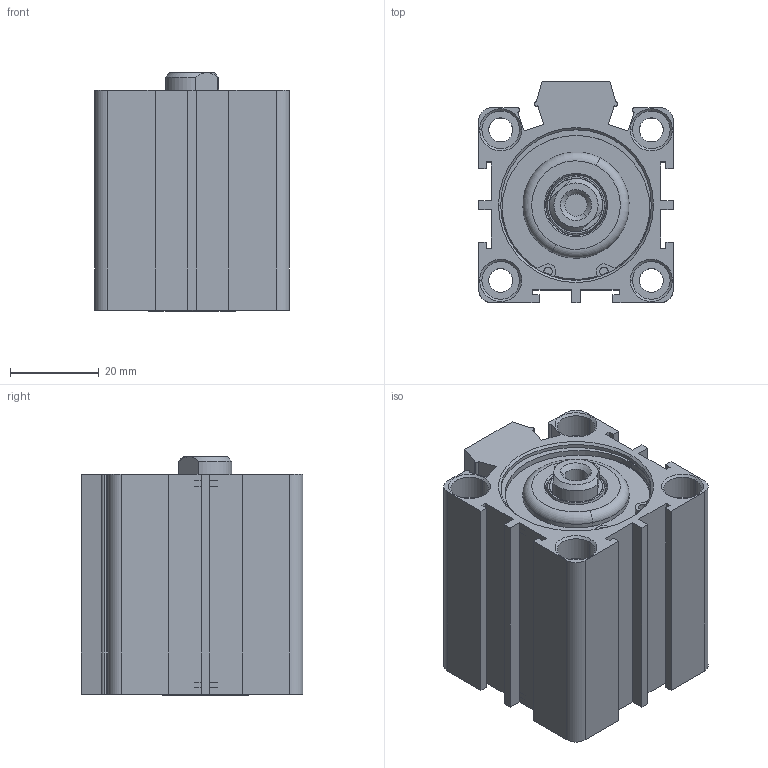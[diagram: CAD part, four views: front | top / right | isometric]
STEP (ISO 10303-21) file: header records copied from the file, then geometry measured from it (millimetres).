
FILE_DESCRIPTION (( 'STEP AP214' ), '1' );
FILE_NAME ('SDA_32_15_WEB.STEP', '2021-01-22T11:14:21', ( 'cagdas' ), ( '' ), 'SwSTEP 2.0', 'SolidWorks 2021', '' );
FILE_SCHEMA (( 'AUTOMOTIVE_DESIGN' ));
Length unit declared in the file: millimetre
Products named in the file (7): KASTAS-K52-12X16_5X3_6-4_8; 20_MIL_WEB; SDA_32_15_WEB; basic internal retaining ring_am_B27.7M - 3BM1-36; SDA32_BORU_WEB; SDA32ARKKAPAK; SDA32ONKAPAKDINCPLASTIK
Assembly tree (7 placements, depth 2):
  SDA_32_15_WEB
    SDA32_BORU_WEB
    SDA32ONKAPAKDINCPLASTIK
    KASTAS-K52-12X16_5X3_6-4_8
    SDA32ARKKAPAK
    20_MIL_WEB
    basic internal retaining ring_am_B27.7M - 3BM1-36  x2
Bounding box: 44 x 50 x 53.85 mm (x, y, z)
Volume: 56397.1 mm3; surface area: 34233.2 mm2
Topology: 7 solids, 7 shells, 467 faces, 1165 edges, 750 vertices
Faces by surface type: plane 178, cylinder 124, bspline 85, cone 76, torus 4
Entity records: 19570 total; most frequent: CARTESIAN_POINT 7109, ORIENTED_EDGE 2228, DIRECTION 1994, EDGE_CURVE 1114, VERTEX_POINT 716, AXIS2_PLACEMENT_3D 687, VECTOR 620, LINE 620
